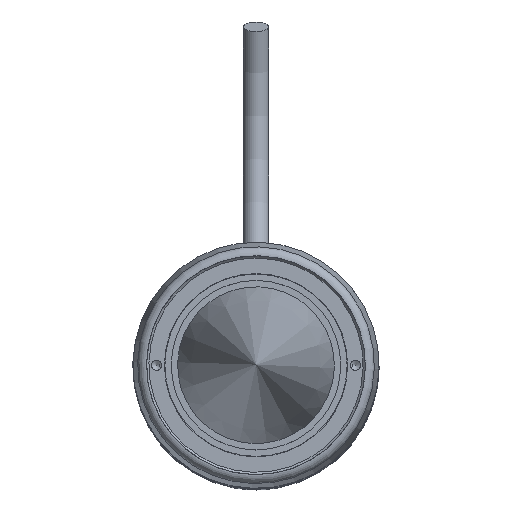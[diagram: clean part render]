
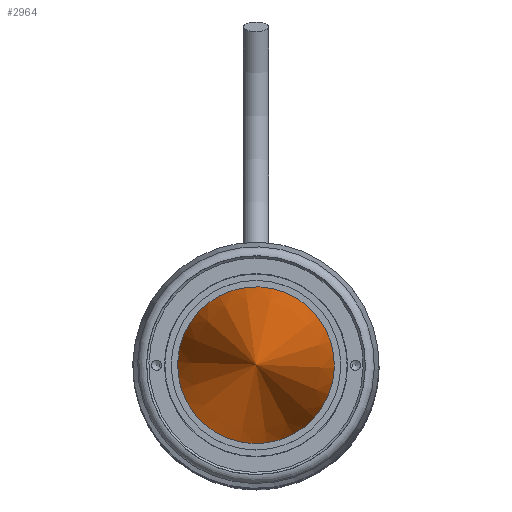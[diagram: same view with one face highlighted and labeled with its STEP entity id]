
A CAD part, top view. The second image highlights one B-rep face of the part: STEP entity #2964.
In plain terms, the highlighted conical face has half-angle 13.085 degrees and reference radius 232.432 mm.
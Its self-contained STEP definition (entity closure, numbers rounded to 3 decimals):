
#30 = AXIS2_PLACEMENT_3D ( 'NONE', #1915, #2172, #351 ) ;
#228 = CARTESIAN_POINT ( 'NONE',  ( 7.966, -3.242, 0.031 ) ) ;
#313 = FACE_OUTER_BOUND ( 'NONE', #1159, .T. ) ;
#351 = DIRECTION ( 'NONE',  ( -0.926, 0.377, 0. ) ) ;
#419 = DIRECTION ( 'NONE',  ( 0.926, -0.377, 0. ) ) ;
#596 = VERTEX_POINT ( 'NONE', #228 ) ;
#1159 = EDGE_LOOP ( 'NONE', ( #2123 ) ) ;
#1312 = CONICAL_SURFACE ( 'NONE', #30, 232.432, 0.228 ) ;
#1320 = AXIS2_PLACEMENT_3D ( 'NONE', #2364, #2834, #419 ) ;
#1438 = EDGE_CURVE ( 'NONE', #596, #596, #2252, .T. ) ;
#1915 = CARTESIAN_POINT ( 'NONE',  ( 0., 0., -962.969 ) ) ;
#2123 = ORIENTED_EDGE ( 'NONE', *, *, #1438, .T. ) ;
#2172 = DIRECTION ( 'NONE',  ( 0., 0., -1. ) ) ;
#2252 = CIRCLE ( 'NONE', #1320, 8.6 ) ;
#2364 = CARTESIAN_POINT ( 'NONE',  ( 0., 0., 0.031 ) ) ;
#2834 = DIRECTION ( 'NONE',  ( 0., 0., 1. ) ) ;
#2964 = ADVANCED_FACE ( 'NONE', ( #313 ), #1312, .T. ) ;
